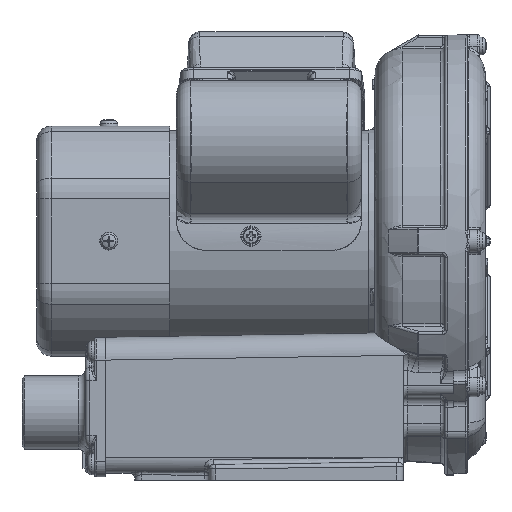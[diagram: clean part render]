
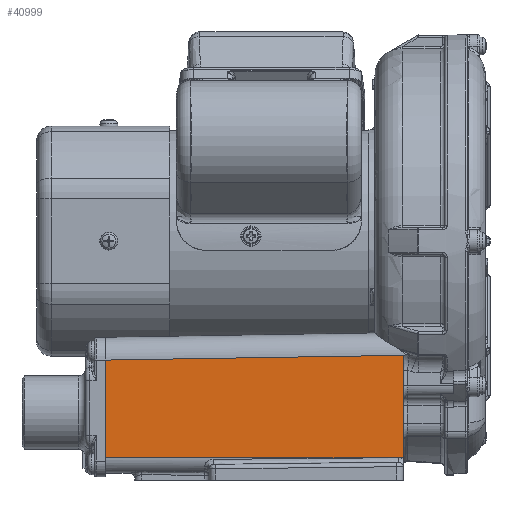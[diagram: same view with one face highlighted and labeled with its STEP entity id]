
A CAD part, left-side view. The second image highlights one B-rep face of the part: STEP entity #40999.
In plain terms, the highlighted planar face has unit normal (-1, 0.012, 0).
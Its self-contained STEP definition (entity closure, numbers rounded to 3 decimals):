
#1037=LINE('',#82260,#2603);
#1076=LINE('',#83097,#2642);
#1220=LINE('',#85600,#2786);
#1445=LINE('',#94212,#3011);
#1469=LINE('',#94651,#3035);
#2603=VECTOR('',#52841,43.249);
#2642=VECTOR('',#53116,0.001);
#2786=VECTOR('',#53870,43.173);
#3011=VECTOR('',#55533,132.009);
#3035=VECTOR('',#55669,132.788);
#4624=PLANE('',#45436);
#7926=FACE_OUTER_BOUND('',#10548,.T.);
#10548=EDGE_LOOP('',(#34726,#34727,#34728,#34729,#34730,#34731));
#14122=B_SPLINE_CURVE_WITH_KNOTS('',3,(#85563,#85564,#85565,#85566,#85567,
#85568,#85569,#85570),.UNSPECIFIED.,.F.,.F.,(4,2,2,4),(0.215,
0.281,0.363,0.453),.UNSPECIFIED.);
#16773=VERTEX_POINT('',#81791);
#16930=VERTEX_POINT('',#82259);
#16974=VERTEX_POINT('',#83096);
#17250=VERTEX_POINT('',#85554);
#17251=VERTEX_POINT('',#85562);
#17253=VERTEX_POINT('',#85599);
#21888=EDGE_CURVE('',#16773,#16930,#1037,.T.);
#22011=EDGE_CURVE('',#16930,#16974,#1076,.T.);
#22446=EDGE_CURVE('',#17251,#17250,#14122,.F.);
#22454=EDGE_CURVE('',#17251,#17253,#1220,.F.);
#23463=EDGE_CURVE('',#17253,#16773,#1445,.T.);
#23524=EDGE_CURVE('',#16974,#17250,#1469,.T.);
#34726=ORIENTED_EDGE('',*,*,#23524,.F.);
#34727=ORIENTED_EDGE('',*,*,#22011,.F.);
#34728=ORIENTED_EDGE('',*,*,#21888,.F.);
#34729=ORIENTED_EDGE('',*,*,#23463,.F.);
#34730=ORIENTED_EDGE('',*,*,#22454,.F.);
#34731=ORIENTED_EDGE('',*,*,#22446,.T.);
#40999=ADVANCED_FACE('',(#7926),#4624,.T.);
#45436=AXIS2_PLACEMENT_3D('',#94678,#55670,#55671);
#52841=DIRECTION('',(0.,0.,1.));
#53116=DIRECTION('',(0.,0.,1.));
#53870=DIRECTION('',(0.,0.,1.));
#55533=DIRECTION('',(0.012,1.,0.));
#55669=DIRECTION('',(-0.012,-1.,0.016));
#55670=DIRECTION('center_axis',(-1.,0.012,0.));
#55671=DIRECTION('ref_axis',(0.,0.,-1.));
#81791=CARTESIAN_POINT('',(-71.,154.5,-96.));
#82259=CARTESIAN_POINT('',(-71.,154.5,-52.751));
#82260=CARTESIAN_POINT('',(-71.,154.5,-103.));
#83096=CARTESIAN_POINT('',(-71.,154.5,-52.75));
#83097=CARTESIAN_POINT('',(-71.,154.5,-103.));
#85554=CARTESIAN_POINT('',(-72.545,21.738,-50.626));
#85562=CARTESIAN_POINT('',(-72.536,22.5,-52.827));
#85563=CARTESIAN_POINT('Ctrl Pts',(-72.545,21.738,-50.626));
#85564=CARTESIAN_POINT('Ctrl Pts',(-72.543,21.893,-50.783));
#85565=CARTESIAN_POINT('Ctrl Pts',(-72.542,22.023,-50.964));
#85566=CARTESIAN_POINT('Ctrl Pts',(-72.539,22.257,-51.401));
#85567=CARTESIAN_POINT('Ctrl Pts',(-72.538,22.348,-51.661));
#85568=CARTESIAN_POINT('Ctrl Pts',(-72.536,22.473,-52.223));
#85569=CARTESIAN_POINT('Ctrl Pts',(-72.536,22.5,-52.525));
#85570=CARTESIAN_POINT('Ctrl Pts',(-72.536,22.5,-52.827));
#85599=CARTESIAN_POINT('',(-72.536,22.5,-96.));
#85600=CARTESIAN_POINT('',(-72.536,22.5,-56.788));
#94212=CARTESIAN_POINT('',(-71.,154.5,-96.));
#94651=CARTESIAN_POINT('',(-70.996,154.84,-52.756));
#94678=CARTESIAN_POINT('Origin',(-71.,154.5,-39.));
